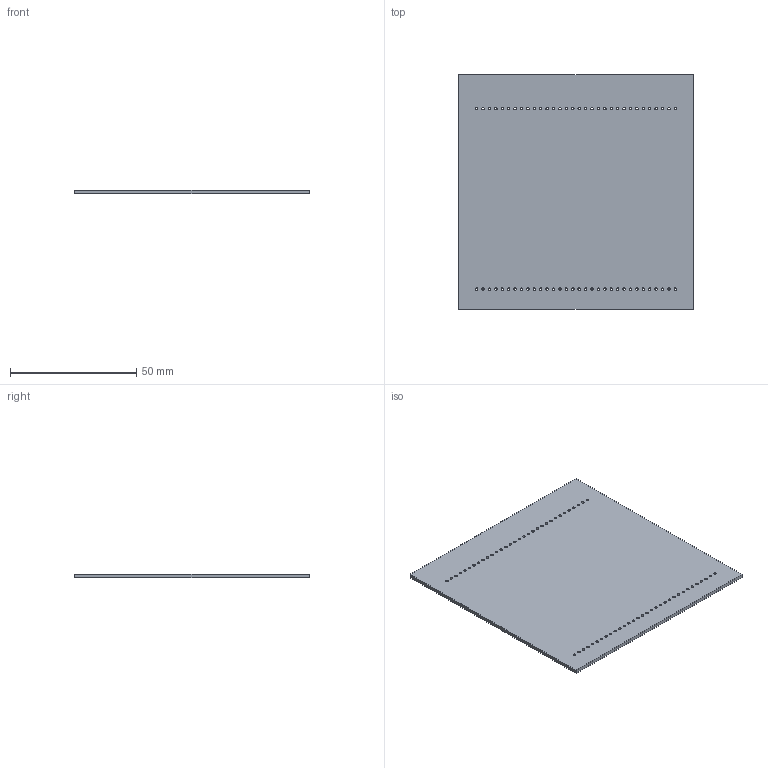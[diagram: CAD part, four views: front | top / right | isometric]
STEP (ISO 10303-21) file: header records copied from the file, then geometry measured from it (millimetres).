
FILE_DESCRIPTION(('KiCad electronic assembly'),'2;1');
FILE_NAME('tud-microled-v2.step','2026-05-19T23:05:05',('Pcbnew'),( 'Kicad'),'Open CASCADE STEP processor 7.6','KiCad to STEP converter' ,'Unknown');
FILE_SCHEMA(('AUTOMOTIVE_DESIGN { 1 0 10303 214 1 1 1 1 }'));
Length unit declared in the file: millimetre
Products named in the file (2): tud-microled-v2 1; tud-microled-v2_PCB
Assembly tree (1 placements, depth 2):
  tud-microled-v2 1
    tud-microled-v2_PCB
Bounding box: 93 x 93 x 1.51 mm (x, y, z)
Volume: 12984.1 mm3; surface area: 18062.8 mm2
Topology: 1 solids, 1 shells, 70 faces, 204 edges, 136 vertices
Faces by surface type: cylinder 64, plane 6
Full cylindrical faces by diameter (mm): 1 x64
Entity records: 2689 total; most frequent: DIRECTION 476, CARTESIAN_POINT 412, ORIENTED_EDGE 408, EDGE_CURVE 204, AXIS2_PLACEMENT_3D 200, FACE_BOUND 198, EDGE_LOOP 198, VERTEX_POINT 136
